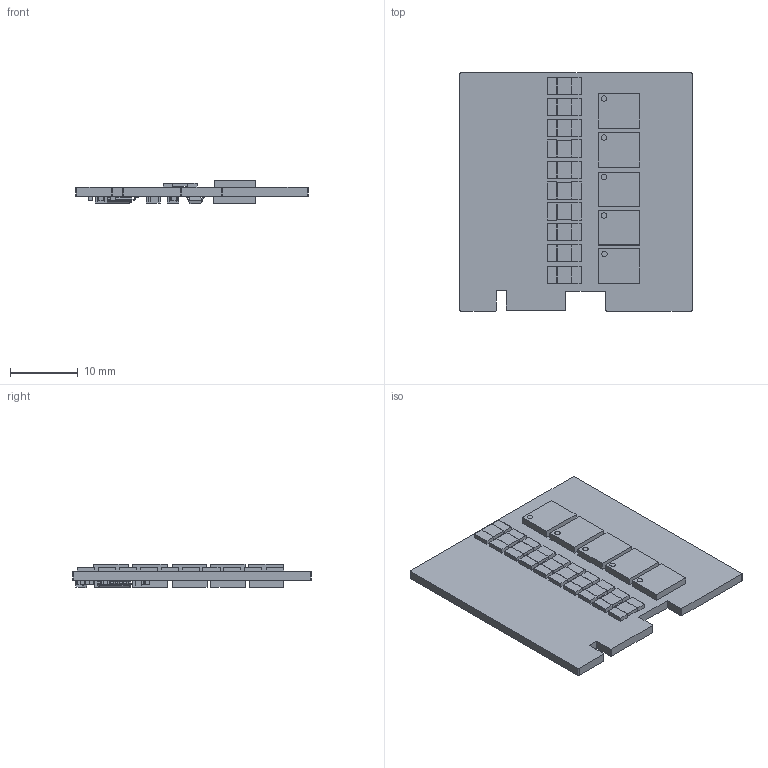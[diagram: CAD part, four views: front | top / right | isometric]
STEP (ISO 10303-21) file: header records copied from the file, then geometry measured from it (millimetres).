
FILE_DESCRIPTION(('Open CASCADE Model'),'2;1');
FILE_NAME('Open CASCADE Shape Model','2022-06-24T19:49:36',('Author'),( 'Open CASCADE'),'Open CASCADE STEP processor 6.8','Open CASCADE 6.8' ,'Unknown');
FILE_SCHEMA(('AUTOMOTIVE_DESIGN { 1 0 10303 214 1 1 1 1 }'));
Length unit declared in the file: millimetre
Products named in the file (1): PCB
Bounding box: 34.25 x 35.26 x 3.45 mm (x, y, z)
Volume: 1884.6 mm3; surface area: 3961.9 mm2
Topology: 69 solids, 335 shells, 1051 faces, 3266 edges, 2621 vertices
Faces by surface type: plane 857, cylinder 184, sphere 10
Entity records: 38862 total; most frequent: CARTESIAN_POINT 7315, DIRECTION 5772, ORIENTED_EDGE 5160, EDGE_CURVE 3266, LINE 2696, VECTOR 2696, VERTEX_POINT 2621, AXIS2_PLACEMENT_3D 1538
